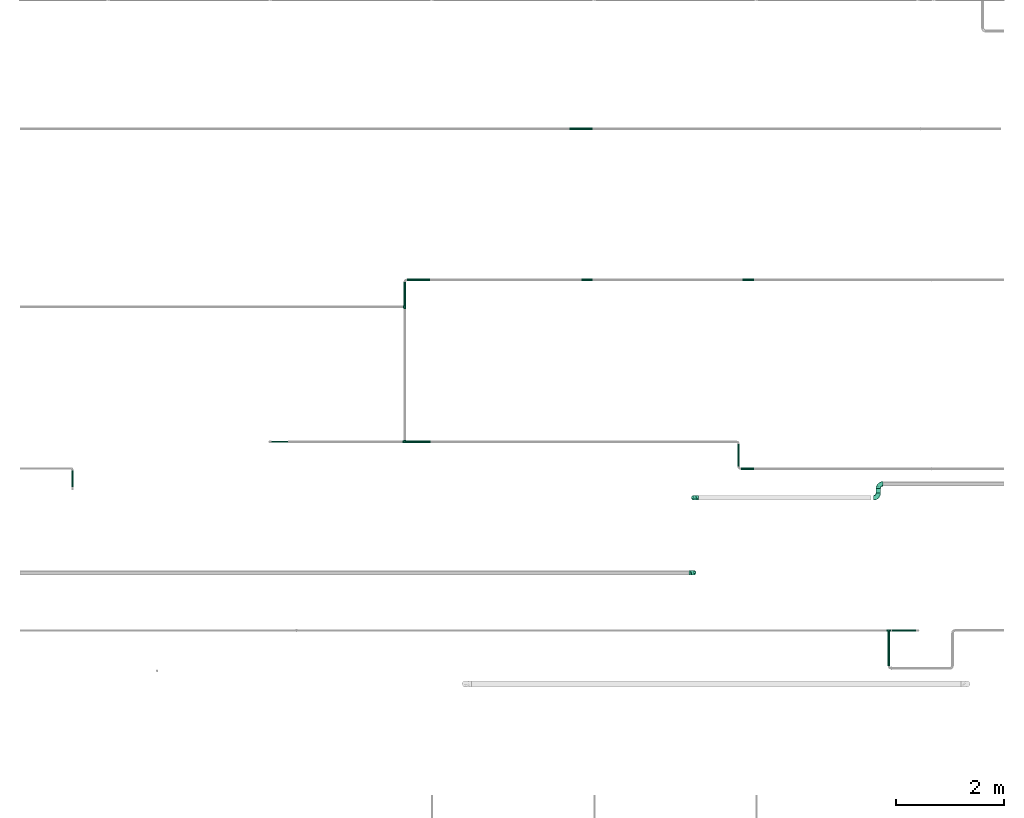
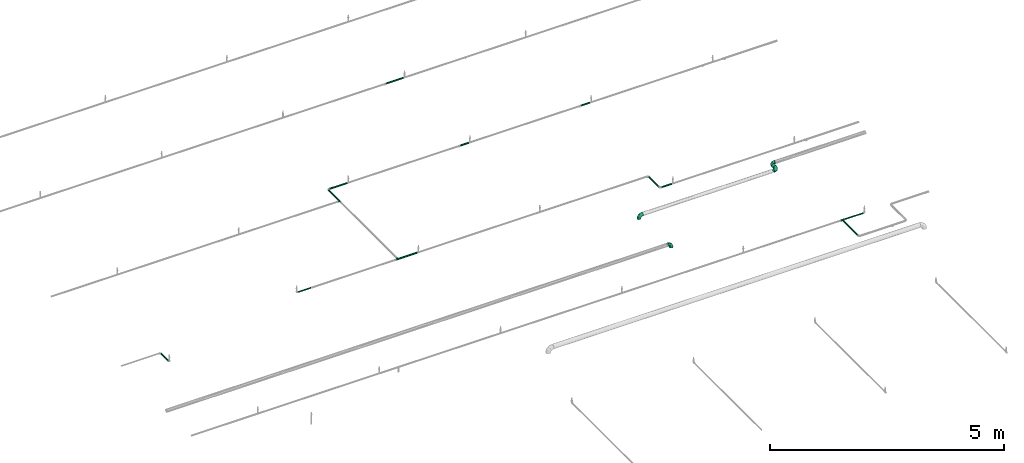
# One storey, part 4 of 94: 13 flow segments, 7 flow fittings.
"""IFC2X3 building model written with IfcOpenShell, lengths in millimetres."""

import ifcopenshell
import ifcopenshell.guid

model = None  # the IFC model being written
_history = None  # IfcOwnerHistory: only IFC2X3 demands one
_inside = {}  # id of a spatial element -> (the spatial element, [elements in it])
_under = {}  # id of a project, library or spatial element -> (it, [spatial elements below it])
_declared = {}  # id of a project -> (the project, [libraries it declares])
_typed = {}  # id of a type object -> (the type object, [elements of that type])
_made_of = {}  # id of a material, layer set ... -> (it, [elements and type objects made of it])


def new_model(schema):
    """Start an empty IFC model of exactly this schema.

    Asked for "IFC4X3", IfcOpenShell would pick the latest addendum, in which some entities
    have other attributes; the version numbers below select the first issue.
    IFC2X3 requires an IfcOwnerHistory on every rooted entity: one is made here for all.
    """
    global model, _history
    if schema == "IFC4X3":
        model = ifcopenshell.file(schema_version=(4, 3, 0, 0))
    else:
        model = ifcopenshell.file(schema=schema)
    _inside.clear()
    _under.clear()
    _declared.clear()
    _typed.clear()
    _made_of.clear()
    _history = None
    if model.schema == "IFC2X3":
        org = make("IfcOrganization", Name="unknown")
        user = make(
            "IfcPersonAndOrganization",
            ThePerson=make("IfcPerson", FamilyName="unknown"),
            TheOrganization=org,
        )
        app = make(
            "IfcApplication",
            ApplicationDeveloper=org,
            Version="unknown",
            ApplicationFullName="unknown",
            ApplicationIdentifier="unknown",
        )
        _history = make(
            "IfcOwnerHistory",
            OwningUser=user,
            OwningApplication=app,
            ChangeAction="ADDED",
            CreationDate=0,
        )
    return model


def make(cls, **values):
    """One entity of the class cls with the attributes given. An attribute that is None is left unset."""
    return model.create_entity(
        cls, **{name: value for name, value in values.items() if value is not None}
    )


def entity(cls, *values):
    """Any entity or typed value of the class cls, its attributes in the order of the schema. None: left unset."""
    e = model.create_entity(cls)
    for i, value in enumerate(values):
        if value is not None:
            e[i] = value
    return e


def rooted(cls, **values):
    """An entity with a GlobalId (a new one), such as an element, a storey or a relation."""
    return make(cls, GlobalId=ifcopenshell.guid.new(), OwnerHistory=_history, **values)


def si_unit(unit_type, name, prefix=None):
    """IfcSIUnit, for example si_unit("LENGTHUNIT", "METRE", prefix="MILLI")."""
    return make("IfcSIUnit", UnitType=unit_type, Prefix=prefix, Name=name)


def converted_unit(unit_type, name, factor, base, dimensions=None, offset=None):
    """IfcConversionBasedUnit, such as the inch: factor (a typed value) times the base unit."""
    return make(
        "IfcConversionBasedUnit"
        if offset is None
        else "IfcConversionBasedUnitWithOffset",
        ConversionOffset=offset,
        Dimensions=None
        if dimensions is None
        else entity("IfcDimensionalExponents", *dimensions),
        UnitType=unit_type,
        Name=name,
        ConversionFactor=make(
            "IfcMeasureWithUnit", ValueComponent=factor, UnitComponent=base
        ),
    )


def derived_unit(unit_type, elements):
    """IfcDerivedUnit: a product of units, each with its exponent."""
    return make(
        "IfcDerivedUnit",
        Elements=[
            make("IfcDerivedUnitElement", Unit=unit, Exponent=power)
            for unit, power in elements
        ],
        UnitType=unit_type,
    )


def assignment(units):
    """IfcUnitAssignment: the units of a project."""
    return None if units is None else make("IfcUnitAssignment", Units=units)


def point(xyz):
    """IfcCartesianPoint."""
    return None if xyz is None else make("IfcCartesianPoint", Coordinates=xyz)


def direction(xyz):
    """IfcDirection."""
    return None if xyz is None else make("IfcDirection", DirectionRatios=xyz)


def frame(location, z_axis=None, x_axis=None):
    """IfcAxis2Placement3D, a coordinate frame: its origin and axes. An axis left out is left unset."""
    return make(
        "IfcAxis2Placement3D",
        Location=point(location),
        Axis=direction(z_axis),
        RefDirection=direction(x_axis),
    )


def frame_2d(location, x_axis=None):
    """IfcAxis2Placement2D, a coordinate frame in the plane: its origin and x axis."""
    return make(
        "IfcAxis2Placement2D", Location=point(location), RefDirection=direction(x_axis)
    )


def origin_with_axes():
    """The frame at (0, 0, 0) with the z axis (0, 0, 1) and the x axis (1, 0, 0) written out."""
    return frame((0.0, 0.0, 0.0), z_axis=(0.0, 0.0, 1.0), x_axis=(1.0, 0.0, 0.0))


def origin_2d_with_axis():
    """The frame at (0, 0) in the plane with the x axis (1, 0) written out."""
    return frame_2d((0.0, 0.0), x_axis=(1.0, 0.0))


def place(relative_to, where):
    """IfcLocalPlacement: puts the frame where relative to a parent placement (None: the world)."""
    return make(
        "IfcLocalPlacement", PlacementRelTo=relative_to, RelativePlacement=where
    )


def context(
    kind, dimensions, precision=None, world=None, true_north=None, identifier=None
):
    """IfcGeometricRepresentationContext, for example the 3D "Model" context."""
    return make(
        "IfcGeometricRepresentationContext",
        ContextIdentifier=identifier,
        ContextType=kind,
        CoordinateSpaceDimension=dimensions,
        Precision=precision,
        WorldCoordinateSystem=world,
        TrueNorth=true_north,
    )


def subcontext(parent, identifier, kind, view, scale=None):
    """IfcGeometricRepresentationSubContext, for example "Body" below "Model"."""
    return make(
        "IfcGeometricRepresentationSubContext",
        ContextIdentifier=identifier,
        ContextType=kind,
        ParentContext=parent,
        TargetScale=scale,
        TargetView=view,
    )


def project(units=None, contexts=None):
    """IfcProject with its units and contexts."""
    return rooted(
        "IfcProject",
        Name="project",
        RepresentationContexts=contexts,
        UnitsInContext=assignment(units),
    )


def spatial(cls, under=None, at=None, **own):
    """A site, building, storey or space (cls), placed at a placement, below another one or the project."""
    s = rooted(cls, ObjectPlacement=at, **own)
    if under is not None:
        _under.setdefault(under.id(), (under, []))[1].append(s)
    return s


def profile(cls, at=None, kind="AREA", **sizes):
    """A parametric profile (cls). Its sizes go by their IFC names, for example OverallWidth=200.0."""
    return make(cls, ProfileType=kind, Position=at, **sizes)


def hollow_circle(**sizes):
    """IfcCircleHollowProfileDef."""
    return profile("IfcCircleHollowProfileDef", **sizes)


def extrude(swept, where, along, depth):
    """IfcExtrudedAreaSolid: the profile swept, set in the frame where, extruded along a direction by depth."""
    return make(
        "IfcExtrudedAreaSolid",
        SweptArea=swept,
        Position=where,
        ExtrudedDirection=direction(along),
        Depth=depth,
    )


def faces_of(points, faces, orient=None, outer=None):
    """IfcFace entities. A face is a list of loops; a loop is a list of indices into points, from 0.

    orient and outer hold one flag for each loop. By default every Orientation is true, the
    first loop of a face is its IfcFaceOuterBound and the others are IfcFaceBound.
    """
    made = []
    for i, loops in enumerate(faces):
        bounds = []
        for j, loop in enumerate(loops):
            is_outer = j == 0 if outer is None else outer[i][j]
            bounds.append(
                make(
                    "IfcFaceOuterBound" if is_outer else "IfcFaceBound",
                    Bound=make("IfcPolyLoop", Polygon=[points[k] for k in loop]),
                    Orientation=True if orient is None else orient[i][j],
                )
            )
        made.append(make("IfcFace", Bounds=bounds))
    return made


def open_shell(faces, orient=None, outer=None):
    """The faces of one IfcOpenShell. surface_model builds it on its shared points."""
    return ("IfcOpenShell", faces, orient, outer)


def surface_model(cls, points, shells):
    """IfcFaceBasedSurfaceModel or IfcShellBasedSurfaceModel (cls): surfaces that need not close."""
    shared = [point(p) for p in points]
    made = [make(c, CfsFaces=faces_of(shared, fs, o, b)) for c, fs, o, b in shells]
    if cls == "IfcFaceBasedSurfaceModel":
        return make(cls, FbsmFaces=made)
    return make(cls, SbsmBoundary=made)


def shape(context_of_items, identifier, shape_type, items):
    """IfcShapeRepresentation: the items that make up one representation, for example the "Body"."""
    return make(
        "IfcShapeRepresentation",
        ContextOfItems=context_of_items,
        RepresentationIdentifier=identifier,
        RepresentationType=shape_type,
        Items=items,
    )


def source(mapping_origin, context_of_items, identifier, shape_type, items):
    """IfcRepresentationMap: a shape defined once, which mapped items show again and again."""
    return make(
        "IfcRepresentationMap",
        MappingOrigin=mapping_origin,
        MappedRepresentation=shape(context_of_items, identifier, shape_type, items),
    )


def transform(
    local_origin,
    x_axis=None,
    y_axis=None,
    z_axis=None,
    scale=None,
    scale2=None,
    scale3=None,
    uniform=True,
):
    """IfcCartesianTransformationOperator3D, or its non-uniform kind. x_axis, y_axis, z_axis: its Axis1, 2, 3."""
    if uniform:
        return make(
            "IfcCartesianTransformationOperator3D",
            Axis1=direction(x_axis),
            Axis2=direction(y_axis),
            LocalOrigin=point(local_origin),
            Scale=scale,
            Axis3=direction(z_axis),
        )
    return make(
        "IfcCartesianTransformationOperator3DnonUniform",
        Axis1=direction(x_axis),
        Axis2=direction(y_axis),
        LocalOrigin=point(local_origin),
        Scale=scale,
        Axis3=direction(z_axis),
        Scale2=scale2,
        Scale3=scale3,
    )


def mapped(mapping_source, mapping_target):
    """IfcMappedItem: shows the shape of a source again, moved by a transform."""
    return make(
        "IfcMappedItem", MappingSource=mapping_source, MappingTarget=mapping_target
    )


def made_of(thing, what):
    """Note that an element or type object is made of a material, layer set ...; save() writes the relation."""
    if what is not None:
        _made_of.setdefault(what.id(), (what, []))[1].append(thing)
    return thing


def type_object(cls, material=None, **own):
    """A type object (cls), such as IfcWallType, which elements share."""
    return made_of(rooted(cls, **own), material)


def element(
    cls,
    number,
    at=None,
    inside=None,
    cuts=None,
    type_object=None,
    material=None,
    context=None,
    identifier="Body",
    shape_type=None,
    held_by="IfcProductDefinitionShape",
    body=None,
    shapes=None,
    **own,
):
    """One element of the class cls, such as IfcWall. Its Tag is "e" and its number.

    at: its placement. inside: the storey or other place that contains it. cuts: it is an
    opening in that element (IfcRelVoidsElement). A single representation is given by context,
    identifier, shape_type and body (its items); several are given by shapes. held_by: the class
    of the entity that holds the representations. save() writes the other relations.
    """
    e = rooted(cls, Tag="e%d" % number, ObjectPlacement=at, **own)
    if body is not None:
        shapes = [shape(context, identifier, shape_type, body)]
    if shapes is not None:
        e.Representation = make(held_by, Representations=shapes)
    if inside is not None:
        _inside.setdefault(inside.id(), (inside, []))[1].append(e)
    if cuts is not None:
        rooted(
            "IfcRelVoidsElement", RelatingBuildingElement=cuts, RelatedOpeningElement=e
        )
    if type_object is not None:
        _typed.setdefault(type_object.id(), (type_object, []))[1].append(e)
    return made_of(e, material)


def aggregate(whole, parts):
    """IfcRelAggregates: a whole, such as a stair, and the parts it consists of."""
    return rooted("IfcRelAggregates", RelatingObject=whole, RelatedObjects=parts)


def save(model, path):
    """Write the relations noted so far, then the file.

    IfcRelAggregates (storeys below a building ...), IfcRelContainedInSpatialStructure (elements
    in a storey), IfcRelDefinesByType, IfcRelAssociatesMaterial and IfcRelDeclares: one each for
    every whole, place, type object, material and project.
    """
    for whole, parts in _under.values():
        aggregate(whole, parts)
    for where, things in _inside.values():
        rooted(
            "IfcRelContainedInSpatialStructure",
            RelatedElements=things,
            RelatingStructure=where,
        )
    for kind, things in _typed.values():
        rooted("IfcRelDefinesByType", RelatedObjects=things, RelatingType=kind)
    for what, things in _made_of.values():
        rooted("IfcRelAssociatesMaterial", RelatedObjects=things, RelatingMaterial=what)
    for by, libraries in _declared.values():
        rooted("IfcRelDeclares", RelatingContext=by, RelatedDefinitions=libraries)
    model.write(path)


model = new_model("IFC2X3")

# Units and contexts
model_context = context("Model", 3, precision=0.01, world=frame((0.0, 4.29681676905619e-09, 0.0)), true_north=direction((4.01073788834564e-13, 1.0)))
plan_context = context("Plan", 3, precision=0.01, world=frame((0.0, 4.29681676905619e-09, 0.0)), true_north=direction((4.01073788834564e-13, 1.0)))
body_context = subcontext(model_context, "Body", "Model", "MODEL_VIEW")
ifc_project = project(units=[converted_unit("PLANEANGLEUNIT", "DEGREE", entity("IfcPositiveLengthMeasure", 0.0174532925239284), si_unit("PLANEANGLEUNIT", "RADIAN"), dimensions=[0, 0, 0, 0, 0, 0, 0]), si_unit("AREAUNIT", "SQUARE_METRE"), si_unit("LENGTHUNIT", "METRE", prefix="MILLI"), si_unit("MASSUNIT", "GRAM", prefix="KILO"), si_unit("POWERUNIT", "WATT"), si_unit("PRESSUREUNIT", "PASCAL"), si_unit("FORCEUNIT", "NEWTON", prefix="KILO"), si_unit("ELECTRICCURRENTUNIT", "AMPERE"), si_unit("THERMODYNAMICTEMPERATUREUNIT", "DEGREE_CELSIUS"), si_unit("TIMEUNIT", "SECOND"), si_unit("VOLUMEUNIT", "CUBIC_METRE"), derived_unit("LINEARVELOCITYUNIT", [(si_unit("LENGTHUNIT", "METRE"), 1), (si_unit("TIMEUNIT", "SECOND"), -1)]), derived_unit("VOLUMETRICFLOWRATEUNIT", [(si_unit("VOLUMEUNIT", "CUBIC_METRE"), 1), (si_unit("TIMEUNIT", "SECOND"), -1)]), derived_unit("THERMALTRANSMITTANCEUNIT", [(si_unit("POWERUNIT", "WATT"), 1), (si_unit("THERMODYNAMICTEMPERATUREUNIT", "KELVIN"), -1), (si_unit("AREAUNIT", "SQUARE_METRE"), -1)])], contexts=[model_context, plan_context])

# Site, building, storey
site_placement = place(None, frame((0.0, -4.29681676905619e-09, 0.0), z_axis=(0.0, 0.0, 1.0), x_axis=(1.0, 0.0, 0.0)))
site = spatial("IfcSite", under=ifc_project, at=site_placement, CompositionType="ELEMENT")
building_placement = place(site_placement, frame((0.0, 4.29681676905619e-09, 0.0), z_axis=(0.0, 0.0, 1.0), x_axis=(1.0, 0.0, 0.0)))
building = spatial("IfcBuilding", under=site, at=building_placement, Name="mc-building", CompositionType="ELEMENT")
storey_placement = place(building_placement, frame((0.0, 0.0, 200300.0), z_axis=(0.0, 0.0, 1.0), x_axis=(1.0, 0.0, 0.0)))
storey = spatial("IfcBuildingStorey", under=building, at=storey_placement, Name="Nivå C", CompositionType="ELEMENT", Elevation=200300.0)

# Flow fittings
pipe_fitting_type_1 = type_object("IfcPipeFittingType", Name="magi_pipe_fe_elbow_short_001", PredefinedType="BEND")
shared_shape_1 = source(origin_with_axes(), body_context, "Body", "SurfaceModel", [
    surface_model("IfcShellBasedSurfaceModel", [(-89.0, 22.25, -38.53813), (-89.0, 11.51745, -42.9837), (-89.0, 0.0, -44.5), (-89.0, -31.46625, -31.46625), (-89.0, 42.9837, -11.51745), (-89.0, 38.53813, -22.25), (-89.0, 31.46625, -31.46625), (-89.0, -42.9837, 11.51745), (-89.0, -22.25, -38.53813), (-89.0, -11.51745, -42.9837), (-89.0, -38.53813, -22.25), (-89.0, -42.9837, -11.51745), (-89.0, -44.5, 0.0), (-89.0, 44.5, 0.0), (-89.0, 42.9837, 11.51745), (-89.0, 38.53813, 22.25), (-89.0, 11.51745, 42.9837), (-89.0, 22.25, 38.53813), (-89.0, 31.46625, 31.46625), (-89.0, -38.53813, 22.25), (-89.0, -31.46625, 31.46625), (-89.0, -22.25, 38.53813), (-89.0, -11.51745, 42.9837), (-89.0, 0.0, 44.5), (0.0, 89.0, -44.5), (-11.51745, 89.0, -42.9837), (-22.25, 89.0, -38.53813), (31.46625, 89.0, -31.46625), (-31.46625, 89.0, -31.46625), (-38.53813, 89.0, -22.25), (-42.9837, 89.0, -11.51745), (42.9837, 89.0, 11.51745), (11.51745, 89.0, -42.9837), (22.25, 89.0, -38.53813), (42.9837, 89.0, -11.51745), (38.53813, 89.0, -22.25), (44.5, 89.0, 0.0), (-42.9837, 89.0, 11.51745), (-44.5, 89.0, 0.0), (-11.51745, 89.0, 42.9837), (-38.53813, 89.0, 22.25), (-31.46625, 89.0, 31.46625), (-22.25, 89.0, 38.53813), (31.46625, 89.0, 31.46625), (38.53813, 89.0, 22.25), (22.25, 89.0, 38.53813), (0.0, 89.0, 44.5), (11.51745, 89.0, 42.9837), (-65.42428, -34.58934, 24.99387), (-60.92615, -39.17738, 14.07402), (-54.44766, -39.9511, 0.0), (-67.0033, -41.60408, 0.0), (20.966, 19.15286, 16.63614), (18.51857, 22.50533, 24.08448), (10.4657, 7.08355, 19.79374), (-67.98176, -5.89504, 43.73894), (-62.31445, 6.82125, 44.42415), (-11.98759, -17.38546, 13.71247), (-3.14091, -7.12033, 19.73763), (-17.39966, -17.28161, 21.15509), (-65.35987, -16.82173, 40.03398), (-34.36647, -10.72722, 37.00789), (-44.30391, -0.39934, 43.13177), (-58.22127, -25.63456, 33.14332), (-32.81793, -30.5148, 11.22345), (-38.34883, -33.28275, 0.0), (-22.25, -26.61439, 0.0), (-0.24515, 1.50726, 26.66121), (-15.28358, -10.61466, 27.57816), (-43.49903, 71.02442, 19.34125), (-37.1739, 69.28144, 29.23502), (-16.61105, 76.75956, 41.6822), (-6.09891, 66.56572, 44.3907), (-68.59708, 17.4527, 42.03662), (-11.61575, 29.80494, 43.69445), (-22.11114, 8.16361, 41.55403), (-4.54608, 24.04213, 40.89496), (-76.99086, 26.94844, 36.25967), (-15.46582, 43.76126, 44.42016), (-32.96179, 32.96179, 43.41874), (-26.49757, 19.44613, 44.27078), (-70.35301, 47.39906, 9.78402), (-71.04653, 43.49184, 19.33829), (-55.25263, 55.25263, 16.63447), (-69.56392, 37.0962, 29.20392), (25.63456, 58.22127, 33.14332), (-46.15102, 58.98863, 25.18654), (-7.94897, 7.94897, 36.38252), (33.28275, 38.34883, 0.0), (30.5148, 32.81793, 11.22345), (26.61439, 22.25, 0.0), (-32.2623, 57.51649, 37.40098), (-46.90759, 49.6971, 31.52137), (28.15678, 38.83054, 22.40746), (39.17738, 60.92615, 14.07402), (34.58934, 65.42428, 24.99387), (5.89504, 67.98176, 43.73894), (-38.83054, -28.15678, 22.40746), (41.60408, 67.0033, 0.0), (39.9511, 54.44766, 0.0), (-47.30867, 30.19441, 41.15989), (-48.89993, 19.06144, 43.70364), (-27.18633, 74.61927, 36.44428), (-46.8419, 71.78865, 9.54666), (-55.77112, 58.36681, 7.8317), (20.15578, 36.24405, 30.67717), (10.72722, 34.36646, 37.00789), (8.82969, 16.37545, 30.02978), (-50.46187, 66.75, 0.0), (-41.19565, 46.99267, 36.56569), (-61.27852, 30.20737, 37.47359), (16.82173, 65.35987, 40.03398), (-35.45256, 43.08265, 40.48995), (-25.39356, 46.06506, 42.77813), (-35.78831, -20.18199, 30.44157), (-19.24543, 60.29859, 42.38003), (-43.66621, 10.90441, 44.48101), (-57.15357, 47.81587, 24.81424), (0.39934, 44.30391, 43.13177), (4.50506, -4.03199, 11.81801), (-8.42562, -16.00657, 0.0), (5.39876, -5.39876, 0.0), (18.27854, 11.2026, 9.2952), (-66.75, 50.46187, 0.0), (16.00657, 8.42562, 0.0), (-65.62177, 38.32407, -29.64079), (-71.00581, 43.50509, -19.34374), (-36.35432, -11.23048, -37.33452), (-38.64129, -0.55509, -42.32471), (-17.87953, -0.74466, -36.46313), (-70.44691, 5.62674, -44.35517), (-42.59749, -33.40785, -14.96594), (-64.9187, -39.8376, -14.50738), (-55.9131, -33.00026, -24.10277), (-64.74306, 18.16527, -42.19806), (-49.02368, 10.51969, -44.49039), (-72.04232, 46.69365, -9.73728), (-43.29251, 50.55118, -33.51754), (-41.12712, 41.12712, -39.07257), (-54.39048, 37.59063, -35.35294), (-56.62372, 56.62371, -10.62473), (15.35741, 56.35485, -39.57726), (17.54325, 75.15597, -40.50008), (26.58599, 64.37989, -33.59817), (8.60891, -0.6174, -9.3365), (21.03491, 14.72807, -8.10637), (-18.16527, 64.74306, -42.19806), (-69.86124, 27.93071, -36.81239), (-74.91995, -35.42449, -25.85463), (-53.44587, 53.44587, -21.93397), (-38.32407, 65.62176, -29.64079), (-2.76838, -7.06072, -19.3197), (-13.25704, -8.90126, -27.75888), (3.56899, 7.13004, -28.01), (-64.37989, -26.58599, -33.59817), (24.07506, 30.03079, -22.26791), (33.00026, 55.9131, -24.10277), (31.23147, 35.6382, -13.05741), (-75.15597, -17.54325, -40.50008), (39.8376, 64.9187, -14.50738), (-48.56519, -20.31894, -34.9406), (-33.22603, -18.15266, -31.12982), (-25.41361, -19.94101, -24.51222), (15.24517, 10.92147, -16.71054), (-6.18621, -14.52322, -9.0433), (-27.62496, -28.53296, -8.93888), (-46.69365, 72.04231, -9.73728), (-56.35485, -15.35741, -39.57726), (-65.56275, -5.6109, -43.68636), (-5.62674, 70.44691, -44.35517), (1.87337, 20.9035, -37.11096), (-15.70957, 15.70957, -42.01996), (0.55509, 38.64129, -42.32471), (-43.50509, 71.00581, -19.34374), (5.6109, 65.56274, -43.68636), (35.42449, 74.91995, -25.85463), (-27.93071, 69.86124, -36.8124), (-25.96661, 24.06239, -44.47474), (-42.18599, 26.33091, -43.1755), (9.1973, 37.99016, -38.87512), (18.15266, 33.22603, -31.12982), (-54.10228, 28.63855, -40.10814), (-10.51969, 49.02368, -44.49039), (-26.53428, 43.30446, -42.96025), (-33.34568, 54.74553, -37.69591), (-22.46771, -22.93149, -16.78715)], [open_shell([[[0, 1, 2]], [[0, 2, 3]], [[4, 5, 6]], [[7, 6, 0]], [[0, 3, 7]], [[8, 3, 9]], [[3, 2, 9]], [[10, 11, 3]], [[7, 3, 11]], [[11, 12, 7]], [[13, 4, 6]], [[13, 7, 14]], [[15, 14, 16]], [[16, 17, 18]], [[15, 16, 18]], [[16, 14, 7]], [[19, 20, 7]], [[21, 7, 20]], [[22, 23, 21]], [[7, 21, 23]], [[23, 16, 7]], [[6, 7, 13]], [[24, 25, 26]], [[27, 24, 26]], [[28, 29, 30]], [[28, 30, 26]], [[31, 27, 26]], [[32, 27, 33]], [[32, 24, 27]], [[27, 34, 35]], [[34, 27, 31]], [[31, 36, 34]], [[30, 31, 26]], [[37, 31, 38]], [[39, 37, 40]], [[41, 42, 39]], [[41, 39, 40]], [[31, 37, 39]], [[31, 43, 44]], [[43, 31, 45]], [[45, 46, 47]], [[45, 31, 39]], [[39, 46, 45]], [[38, 31, 30]], [[48, 19, 49]], [[50, 49, 51]], [[52, 53, 54]], [[49, 19, 7]], [[7, 51, 49]], [[23, 55, 56]], [[20, 19, 48]], [[57, 58, 59]], [[60, 61, 62]], [[63, 21, 20]], [[63, 60, 21]], [[64, 65, 66]], [[58, 67, 68]], [[40, 69, 70]], [[39, 71, 72]], [[16, 73, 17]], [[74, 75, 76]], [[17, 77, 18]], [[22, 55, 23]], [[78, 79, 80]], [[81, 82, 83]], [[15, 84, 82]], [[85, 43, 45]], [[13, 14, 81]], [[14, 15, 82]], [[69, 86, 70]], [[84, 15, 18]], [[23, 56, 16]], [[68, 87, 61]], [[18, 77, 84]], [[88, 89, 90]], [[91, 70, 92]], [[93, 94, 95]], [[57, 59, 64]], [[40, 37, 69]], [[47, 46, 96]], [[44, 43, 95]], [[94, 31, 44]], [[49, 50, 65]], [[95, 94, 44]], [[48, 97, 63]], [[94, 98, 31]], [[94, 88, 99]], [[100, 73, 101]], [[70, 91, 102]], [[83, 103, 104]], [[105, 106, 107]], [[108, 103, 38]], [[100, 109, 110]], [[103, 83, 69]], [[85, 111, 106]], [[42, 41, 102]], [[112, 113, 91]], [[40, 70, 41]], [[21, 60, 22]], [[114, 61, 63]], [[111, 45, 47]], [[42, 71, 39]], [[46, 39, 72]], [[115, 78, 72]], [[101, 116, 80]], [[111, 85, 45]], [[110, 92, 84]], [[73, 16, 56]], [[82, 117, 83]], [[115, 113, 78]], [[96, 72, 118]], [[61, 60, 63]], [[55, 60, 62]], [[114, 63, 97]], [[61, 87, 75]], [[96, 111, 47]], [[118, 76, 106]], [[118, 106, 111]], [[106, 87, 107]], [[101, 73, 56]], [[77, 73, 110]], [[97, 48, 49]], [[63, 20, 48]], [[43, 85, 95]], [[93, 95, 85]], [[119, 120, 121]], [[57, 119, 58]], [[57, 64, 66]], [[90, 89, 122]], [[119, 121, 122]], [[106, 105, 85]], [[103, 69, 37]], [[83, 117, 86]], [[100, 112, 109]], [[115, 71, 102]], [[117, 84, 92]], [[83, 104, 81]], [[101, 80, 79]], [[118, 72, 78]], [[75, 80, 62]], [[78, 80, 74]], [[72, 96, 46]], [[111, 96, 118]], [[60, 55, 22]], [[56, 55, 62]], [[101, 56, 116]], [[100, 101, 79]], [[112, 100, 79]], [[73, 100, 110]], [[113, 112, 79]], [[109, 112, 91]], [[38, 103, 37]], [[103, 108, 104]], [[108, 123, 104]], [[104, 123, 81]], [[13, 81, 123]], [[14, 82, 81]], [[56, 62, 116]], [[62, 80, 116]], [[78, 113, 79]], [[91, 113, 115]], [[67, 87, 68]], [[53, 107, 54]], [[84, 117, 82]], [[86, 117, 92]], [[70, 86, 92]], [[83, 86, 69]], [[53, 105, 107]], [[93, 85, 105]], [[70, 102, 41]], [[115, 102, 91]], [[91, 92, 109]], [[110, 109, 92]], [[61, 75, 62]], [[76, 75, 87]], [[106, 76, 87]], [[74, 76, 118]], [[78, 74, 118]], [[75, 74, 80]], [[7, 12, 51]], [[98, 94, 99]], [[98, 36, 31]], [[65, 64, 49]], [[49, 64, 97]], [[89, 94, 93]], [[94, 89, 88]], [[93, 53, 52]], [[119, 122, 54]], [[122, 121, 124]], [[58, 119, 54]], [[57, 120, 119]], [[67, 54, 107]], [[59, 58, 68]], [[114, 59, 68]], [[64, 59, 97]], [[54, 67, 58]], [[87, 67, 107]], [[73, 77, 17]], [[84, 77, 110]], [[102, 71, 42]], [[72, 71, 115]], [[59, 114, 97]], [[68, 61, 114]], [[57, 66, 120]], [[54, 122, 52]], [[105, 53, 93]], [[122, 89, 52]], [[93, 52, 89]], [[124, 90, 122]], [[125, 5, 126]], [[127, 128, 129]], [[2, 1, 130]], [[131, 132, 133]], [[130, 134, 135]], [[134, 1, 0]], [[123, 136, 13]], [[137, 138, 139]], [[126, 136, 140]], [[141, 142, 143]], [[125, 6, 5]], [[144, 145, 124]], [[25, 146, 26]], [[134, 0, 147]], [[132, 10, 148]], [[149, 150, 137]], [[132, 51, 11]], [[151, 152, 153]], [[154, 3, 8]], [[155, 156, 157]], [[158, 154, 8]], [[159, 35, 34]], [[10, 132, 11]], [[3, 148, 10]], [[133, 154, 160]], [[158, 8, 9]], [[161, 162, 133]], [[153, 155, 163]], [[123, 108, 140]], [[164, 66, 165]], [[38, 30, 166]], [[167, 168, 128]], [[5, 4, 126]], [[25, 169, 146]], [[170, 171, 172]], [[173, 150, 149]], [[25, 24, 169]], [[33, 27, 143]], [[174, 32, 142]], [[29, 28, 150]], [[175, 27, 35]], [[26, 176, 28]], [[177, 135, 178]], [[32, 33, 142]], [[159, 157, 156]], [[139, 147, 125]], [[170, 172, 179]], [[30, 29, 173]], [[153, 170, 180]], [[168, 167, 158]], [[143, 180, 141]], [[168, 9, 2]], [[159, 98, 99]], [[147, 181, 134]], [[0, 6, 147]], [[159, 156, 175]], [[176, 26, 146]], [[182, 174, 172]], [[32, 174, 24]], [[135, 134, 178]], [[138, 183, 178]], [[173, 140, 166]], [[138, 137, 184]], [[134, 181, 178]], [[185, 151, 164]], [[173, 166, 30]], [[140, 149, 126]], [[175, 143, 27]], [[180, 143, 156]], [[172, 174, 141]], [[169, 174, 182]], [[179, 180, 170]], [[172, 171, 177]], [[159, 34, 98]], [[157, 99, 88]], [[145, 157, 90]], [[155, 157, 163]], [[167, 127, 160]], [[148, 154, 133]], [[130, 168, 2]], [[135, 177, 128]], [[135, 128, 168]], [[128, 171, 129]], [[133, 162, 131]], [[34, 36, 98]], [[6, 125, 147]], [[181, 139, 138]], [[146, 183, 184]], [[150, 28, 176]], [[126, 4, 136]], [[125, 126, 149]], [[150, 173, 29]], [[140, 173, 149]], [[180, 155, 153]], [[129, 171, 170]], [[151, 153, 163]], [[153, 152, 129]], [[153, 129, 170]], [[129, 161, 127]], [[134, 130, 1]], [[168, 130, 135]], [[174, 169, 24]], [[146, 169, 182]], [[184, 183, 138]], [[177, 171, 128]], [[183, 177, 178]], [[172, 177, 182]], [[146, 182, 183]], [[177, 183, 182]], [[185, 165, 131]], [[65, 131, 165]], [[164, 144, 121]], [[152, 162, 161]], [[144, 151, 163]], [[164, 120, 66]], [[162, 151, 185]], [[129, 152, 161]], [[13, 136, 4]], [[123, 140, 136]], [[140, 108, 166]], [[38, 166, 108]], [[151, 144, 164]], [[145, 144, 163]], [[157, 145, 163]], [[124, 121, 144]], [[145, 90, 124]], [[164, 165, 185]], [[65, 50, 131]], [[165, 66, 65]], [[50, 132, 131]], [[138, 178, 181]], [[147, 139, 181]], [[125, 149, 137]], [[137, 139, 125]], [[184, 150, 176]], [[150, 184, 137]], [[184, 176, 146]], [[151, 162, 152]], [[162, 185, 131]], [[51, 132, 50]], [[51, 12, 11]], [[143, 142, 33]], [[174, 142, 141]], [[159, 175, 35]], [[143, 175, 156]], [[168, 158, 9]], [[154, 158, 167]], [[154, 148, 3]], [[132, 148, 133]], [[99, 157, 159]], [[88, 90, 157]], [[156, 155, 180]], [[172, 141, 179]], [[180, 179, 141]], [[160, 127, 161]], [[128, 127, 167]], [[133, 160, 161]], [[167, 160, 154]], [[164, 121, 120]]])]),
])
for number, where, z_axis, x_axis, name in (
    (1, (526346.06344, 409460.81516, 2750.0), (0.0, 1.0, 0.0), (0.0, 0.0, 1.0), "magi_pipe_fe_elbow_short_001"),
    (2, (529766.06344, 409460.81516, 2750.0), (0.0, 0.0, 1.0), (1.0, 0.0, 0.0), "magi_pipe_fe_elbow_short_001"),
    (3, (529766.06344, 409720.81516, 2750.0), (0.0, 0.0, 1.0), (-1.0, 0.0, 0.0), "magi_pipe_fe_elbow_short_001"),
    (4, (526346.06344, 408074.33253, 2850.0), (0.0, -1.0, 0.0), (0.0, 0.0, 1.0), "magi_pipe_fe_elbow_short_001"),
):
    element("IfcFlowFitting", number, at=place(storey_placement, frame(where, z_axis=z_axis, x_axis=x_axis)), inside=storey, type_object=pipe_fitting_type_1, Name=name, context=body_context, shape_type="MappedRepresentation", body=[
        mapped(shared_shape_1, transform((0.0, 0.0, 0.0), scale=1.0)),
    ])
pipe_fitting_type_2 = type_object("IfcPipeFittingType", Name="magi_pipe_fe_tee_centric_90_NOR", PredefinedType="JUNCTION")
shared_shape_2 = source(origin_with_axes(), body_context, "Body", "SurfaceModel", [
    surface_model("IfcShellBasedSurfaceModel", [(-42.4, 5.48696, 20.47763), (-42.4, 10.6, 18.35974), (-42.4, 0.0, 21.2), (-42.4, 0.0, -21.2), (-42.4, -5.48696, -20.47763), (-42.4, 5.48696, -20.47763), (-42.4, 10.6, -18.35974), (-42.4, 14.99066, -14.99066), (-42.4, -20.47763, 5.48696), (-42.4, 18.35974, -10.6), (-42.4, -14.99066, -14.99066), (-42.4, -18.35974, -10.6), (-42.4, -10.6, -18.35974), (-42.4, -20.47763, -5.48696), (-42.4, -21.2, 0.0), (-42.4, 18.35974, 10.6), (-42.4, 20.47763, -5.48696), (-42.4, 20.47763, 5.48696), (-42.4, 21.2, 0.0), (-42.4, 14.99066, 14.99066), (-42.4, -18.35974, 10.6), (-42.4, -14.99066, 14.99066), (-42.4, -10.6, 18.35974), (-42.4, -5.48696, 20.47763), (42.4, 5.48696, -20.47763), (42.4, -5.48696, -20.47763), (42.4, 0.0, -21.2), (42.4, 20.47763, -5.48696), (42.4, 10.6, -18.35974), (42.4, 14.99066, -14.99066), (42.4, 18.35974, -10.6), (42.4, -10.6, -18.35974), (42.4, -18.35974, -10.6), (42.4, -14.99066, -14.99066), (42.4, -21.2, 0.0), (42.4, -20.47763, -5.48696), (42.4, -18.35974, 10.6), (42.4, 20.47763, 5.48696), (42.4, 10.6, 18.35974), (42.4, 18.35974, 10.6), (42.4, 14.99066, 14.99066), (42.4, 0.0, 21.2), (42.4, 5.48696, 20.47763), (42.4, -10.6, 18.35974), (42.4, -14.99066, 14.99066), (42.4, -20.47763, 5.48696), (42.4, -5.48696, 20.47763), (42.4, 21.2, 0.0), (20.431, -20.431, 5.6581), (21.2, -21.2, 0.0), (18.34872, -18.34872, 10.61906), (11.8822, -11.8822, 17.55714), (15.38371, -15.38371, 14.58703), (-21.2, -21.2, 0.0), (-20.431, -20.431, 5.6581), (-18.34872, -18.34872, 10.61906), (-15.38371, -15.38371, 14.58703), (-11.8822, -11.8822, 17.55714), (-8.06471, -8.06471, 19.60613), (8.06471, -8.06471, 19.60613), (4.07093, -4.07093, 20.80547), (0.0, 0.0, 21.2), (-4.07093, -4.07093, 20.80547), (4.07093, -4.07093, -20.80547), (0.0, 0.0, -21.2), (-4.07093, -4.07093, -20.80547), (-8.06471, -8.06471, -19.60613), (8.06471, -8.06471, -19.60613), (11.8822, -11.8822, -17.55714), (15.38371, -15.38371, -14.58703), (18.34872, -18.34872, -10.61906), (20.431, -20.431, -5.6581), (-11.8822, -11.8822, -17.55714), (-15.38371, -15.38371, -14.58703), (-20.431, -20.431, -5.6581), (-18.34872, -18.34872, -10.61906), (14.99066, -31.8, -14.99066), (0.0, -31.8, -21.2), (5.48696, -31.8, -20.47763), (10.6, -31.8, -18.35974), (18.35974, -31.8, -10.6), (20.47763, -31.8, -5.48696), (-21.2, -31.8, 0.0), (-10.6, -31.8, 18.35974), (-5.48696, -31.8, -20.47763), (-14.99066, -31.8, -14.99066), (-10.6, -31.8, -18.35974), (-18.35974, -31.8, -10.6), (-20.47763, -31.8, -5.48696), (20.47763, -31.8, 5.48696), (18.35974, -31.8, 10.6), (10.6, -31.8, 18.35974), (14.99066, -31.8, 14.99066), (0.0, -31.8, 21.2), (5.48696, -31.8, 20.47763), (-14.99066, -31.8, 14.99066), (-18.35974, -31.8, 10.6), (-20.47763, -31.8, 5.48696), (-5.48696, -31.8, 20.47763), (21.2, -31.8, 0.0)], [open_shell([[[0, 1, 2]], [[3, 4, 5]], [[6, 5, 7]], [[8, 5, 4]], [[7, 5, 9]], [[9, 5, 1]], [[10, 11, 12]], [[4, 12, 11]], [[11, 13, 4]], [[14, 4, 13]], [[8, 4, 14]], [[15, 16, 9]], [[15, 17, 18]], [[9, 1, 15]], [[8, 1, 5]], [[19, 15, 1]], [[20, 21, 8]], [[22, 8, 21]], [[23, 2, 22]], [[1, 8, 22]], [[22, 2, 1]], [[18, 16, 15]], [[24, 25, 26]], [[27, 24, 28]], [[29, 30, 27]], [[29, 27, 28]], [[25, 24, 27]], [[31, 32, 33]], [[32, 31, 25]], [[32, 34, 35]], [[36, 32, 25]], [[32, 36, 34]], [[36, 25, 27]], [[36, 27, 37]], [[38, 37, 39]], [[36, 37, 38]], [[38, 39, 40]], [[41, 38, 42]], [[36, 43, 44]], [[45, 34, 36]], [[43, 41, 46]], [[43, 36, 38]], [[41, 43, 38]], [[27, 47, 37]], [[45, 36, 48]], [[34, 45, 49]], [[49, 45, 48]], [[36, 50, 48]], [[44, 43, 51]], [[50, 36, 52]], [[51, 52, 44]], [[52, 36, 44]], [[53, 54, 8]], [[53, 8, 14]], [[8, 54, 20]], [[54, 55, 20]], [[56, 57, 21]], [[21, 20, 56]], [[21, 57, 22]], [[56, 20, 55]], [[22, 57, 58]], [[51, 43, 59]], [[60, 41, 61]], [[59, 46, 60]], [[46, 59, 43]], [[60, 46, 41]], [[61, 41, 42]], [[39, 37, 17]], [[19, 38, 40]], [[15, 40, 39]], [[42, 38, 1]], [[18, 37, 47]], [[62, 61, 2]], [[62, 23, 58]], [[23, 62, 2]], [[58, 23, 22]], [[61, 0, 2]], [[42, 0, 61]], [[1, 0, 42]], [[1, 38, 19]], [[15, 19, 40]], [[17, 15, 39]], [[37, 18, 17]], [[29, 7, 30]], [[27, 16, 47]], [[27, 30, 9]], [[6, 29, 28]], [[26, 25, 63]], [[26, 64, 24]], [[64, 26, 63]], [[28, 24, 5]], [[64, 5, 24]], [[16, 27, 9]], [[30, 7, 9]], [[7, 29, 6]], [[47, 16, 18]], [[65, 66, 4]], [[3, 5, 64]], [[3, 65, 4]], [[66, 12, 4]], [[5, 6, 28]], [[3, 64, 65]], [[63, 25, 67]], [[31, 33, 68]], [[69, 68, 33]], [[32, 70, 69]], [[69, 33, 32]], [[31, 68, 67]], [[35, 34, 49]], [[35, 71, 32]], [[71, 35, 49]], [[32, 71, 70]], [[72, 12, 66]], [[72, 10, 12]], [[10, 72, 73]], [[10, 73, 11]], [[74, 53, 13]], [[75, 74, 11]], [[74, 13, 11]], [[13, 53, 14]], [[75, 11, 73]], [[31, 67, 25]], [[76, 77, 78]], [[76, 78, 79]], [[76, 80, 81]], [[76, 81, 77]], [[82, 77, 83]], [[84, 85, 86]], [[84, 77, 85]], [[87, 82, 88]], [[85, 77, 87]], [[77, 82, 87]], [[77, 81, 83]], [[89, 90, 81]], [[90, 91, 81]], [[91, 83, 81]], [[91, 90, 92]], [[93, 91, 94]], [[82, 95, 96]], [[97, 82, 96]], [[83, 93, 98]], [[83, 95, 82]], [[91, 93, 83]], [[81, 99, 89]], [[82, 97, 53]], [[54, 53, 97]], [[56, 96, 95]], [[95, 83, 57]], [[54, 97, 96]], [[58, 83, 98]], [[55, 54, 96]], [[56, 55, 96]], [[58, 57, 83]], [[93, 61, 62]], [[58, 98, 62]], [[56, 95, 57]], [[62, 98, 93]], [[60, 93, 94]], [[91, 59, 94]], [[90, 89, 48]], [[52, 92, 90]], [[51, 91, 92]], [[49, 89, 99]], [[59, 60, 94]], [[51, 59, 91]], [[49, 48, 89]], [[50, 52, 90]], [[48, 50, 90]], [[51, 92, 52]], [[93, 60, 61]], [[99, 81, 49]], [[71, 49, 81]], [[69, 80, 76]], [[76, 79, 68]], [[80, 71, 81]], [[67, 79, 78]], [[70, 71, 80]], [[69, 70, 80]], [[67, 68, 79]], [[77, 64, 63]], [[67, 78, 63]], [[69, 76, 68]], [[63, 78, 77]], [[65, 77, 84]], [[86, 66, 84]], [[87, 88, 74]], [[73, 85, 87]], [[72, 86, 85]], [[53, 88, 82]], [[66, 65, 84]], [[72, 66, 86]], [[53, 74, 88]], [[75, 73, 87]], [[74, 75, 87]], [[72, 85, 73]], [[77, 65, 64]]])]),
])
for number, where, z_axis, x_axis, name in (
    (5, (529961.18385, 407003.74497, 2850.0), (0.0, 0.0, 1.0), (1.0, 0.0, 0.0), "magi_pipe_fe_tee_centric_90_NOR"),
    (6, (520991.06879, 412998.99053, 2850.0), (0.0, 0.0, -1.0), (0.0, 1.0, 0.0), "magi_pipe_fe_tee_centric_90_NOR"),
    (7, (520991.06879, 410500.1625, 2850.0), (0.0, 0.0, 1.0), (-1.0, 0.0, 0.0), "magi_pipe_fe_tee_centric_90_NOR"),
):
    element("IfcFlowFitting", number, at=place(storey_placement, frame(where, z_axis=z_axis, x_axis=x_axis)), inside=storey, type_object=pipe_fitting_type_2, Name=name, context=body_context, shape_type="MappedRepresentation", body=[
        mapped(shared_shape_2, transform((0.0, 0.0, 0.0), scale=1.0)),
    ])

# Flow segments
pipe_segment_type = type_object("IfcPipeSegmentType", Name="Stålrør normaltykke", PredefinedType="RIGIDSEGMENT")
shared_shape_3 = source(origin_with_axes(), body_context, "Body", "SweptSolid", [
    extrude(hollow_circle(Radius=44.5, WallThickness=2.0, at=origin_2d_with_axis()), frame((0.0, 0.0, 0.0), z_axis=(1.0, 0.0, 0.0), x_axis=(0.0, 1.0, 0.0)), (0.0, 0.0, 1.0), 82.0),
])
flow_segment_1_placement = place(storey_placement, frame((529766.06344, 409549.81516, 2750.0), z_axis=(0.0, 0.0, 1.0), x_axis=(0.0, 1.0, 0.0)))
element("IfcFlowSegment", 8, at=flow_segment_1_placement, inside=storey, type_object=pipe_segment_type, Name="Stålrør normaltykke", context=body_context, shape_type="MappedRepresentation", body=[
    mapped(shared_shape_3, transform((0.0, 0.0, 0.0), scale=1.0)),
])
shared_shape_4 = source(origin_with_axes(), body_context, "Body", "SweptSolid", [
    extrude(hollow_circle(Radius=21.2, WallThickness=2.0, at=origin_2d_with_axis()), frame((0.0, 0.0, 0.0), z_axis=(1.0, 0.0, 0.0), x_axis=(0.0, 1.0, 0.0)), (0.0, 0.0, 1.0), 625.8),
])
flow_segment_2_placement = place(storey_placement, frame((529961.18385, 406971.94497, 2850.0), z_axis=(0.0, 0.0, 1.0), x_axis=(0.0, -1.0, 0.0)))
element("IfcFlowSegment", 9, at=flow_segment_2_placement, inside=storey, type_object=pipe_segment_type, Name="Stålrør normaltykke", context=body_context, shape_type="MappedRepresentation", body=[
    mapped(shared_shape_4, transform((0.0, 0.0, 0.0), scale=1.0)),
])
shared_shape_5 = source(origin_with_axes(), body_context, "Body", "SweptSolid", [
    extrude(hollow_circle(Radius=16.9, WallThickness=2.0, at=origin_2d_with_axis()), frame((0.0, 0.0, 0.0), z_axis=(1.0, 0.0, 0.0), x_axis=(0.0, 1.0, 0.0)), (0.0, 0.0, 1.0), 457.6),
])
flow_segment_3_placement = place(storey_placement, frame((530012.18385, 407003.74497, 2850.0), z_axis=(0.0, 0.0, 1.0), x_axis=(1.0, 0.0, 0.0)))
element("IfcFlowSegment", 10, at=flow_segment_3_placement, inside=storey, type_object=pipe_segment_type, Name="Stålrør normaltykke", context=body_context, shape_type="MappedRepresentation", body=[
    mapped(shared_shape_5, transform((0.0, 0.0, 0.0), scale=1.0)),
])
shared_shape_6 = source(origin_with_axes(), body_context, "Body", "SweptSolid", [
    extrude(hollow_circle(Radius=21.2, WallThickness=2.0, at=origin_2d_with_axis()), frame((0.0, 0.0, 0.0), z_axis=(1.0, 0.0, 0.0), x_axis=(0.0, 1.0, 0.0)), (0.0, 0.0, 1.0), 427.4),
])
flow_segment_4_placement = place(storey_placement, frame((524041.06147, 416298.62756, 2850.0), z_axis=(0.0, 0.0, 1.0), x_axis=(1.0, 0.0, 0.0)))
element("IfcFlowSegment", 11, at=flow_segment_4_placement, inside=storey, type_object=pipe_segment_type, Name="Stålrør normaltykke", context=body_context, shape_type="MappedRepresentation", body=[
    mapped(shared_shape_6, transform((0.0, 0.0, 0.0), scale=1.0)),
])
shared_shape_7 = source(origin_with_axes(), body_context, "Body", "SweptSolid", [
    extrude(hollow_circle(Radius=21.2, WallThickness=2.0, at=origin_2d_with_axis()), frame((0.0, 0.0, 0.0), z_axis=(1.0, 0.0, 0.0), x_axis=(0.0, 1.0, 0.0)), (0.0, 0.0, 1.0), 204.5),
])
flow_segment_5_placement = place(storey_placement, frame((524264.5831, 413500.1625, 2850.0), z_axis=(0.0, 0.0, 1.0), x_axis=(1.0, 0.0, 0.0)))
element("IfcFlowSegment", 12, at=flow_segment_5_placement, inside=storey, type_object=pipe_segment_type, Name="Stålrør normaltykke", context=body_context, shape_type="MappedRepresentation", body=[
    mapped(shared_shape_7, transform((0.0, 0.0, 0.0), scale=1.0)),
])
shared_shape_8 = source(origin_with_axes(), body_context, "Body", "SweptSolid", [
    extrude(hollow_circle(Radius=21.2, WallThickness=2.0, at=origin_2d_with_axis()), frame((0.0, 0.0, 0.0), z_axis=(1.0, 0.0, 0.0), x_axis=(0.0, 1.0, 0.0)), (0.0, 0.0, 1.0), 218.2),
])
flow_segment_6_placement = place(storey_placement, frame((527245.28953, 413500.1625, 2850.0), z_axis=(0.0, 0.0, 1.0), x_axis=(1.0, 0.0, 0.0)))
element("IfcFlowSegment", 13, at=flow_segment_6_placement, inside=storey, type_object=pipe_segment_type, Name="Stålrør normaltykke", context=body_context, shape_type="MappedRepresentation", body=[
    mapped(shared_shape_8, transform((0.0, 0.0, 0.0), scale=1.0)),
])
shared_shape_9 = source(origin_with_axes(), body_context, "Body", "SweptSolid", [
    extrude(hollow_circle(Radius=21.2, WallThickness=2.0, at=origin_2d_with_axis()), frame((0.0, 0.0, 0.0), z_axis=(1.0, 0.0, 0.0), x_axis=(0.0, 1.0, 0.0)), (0.0, 0.0, 1.0), 430.0),
])
flow_segment_7_placement = place(storey_placement, frame((521463.46879, 413500.1625, 2850.0), z_axis=(0.0, 0.0, 1.0), x_axis=(-1.0, 0.0, 0.0)))
element("IfcFlowSegment", 14, at=flow_segment_7_placement, inside=storey, type_object=pipe_segment_type, Name="Stålrør normaltykke", context=body_context, shape_type="MappedRepresentation", body=[
    mapped(shared_shape_9, transform((0.0, 0.0, 0.0), scale=1.0)),
])
shared_shape_10 = source(origin_with_axes(), body_context, "Body", "SweptSolid", [
    extrude(hollow_circle(Radius=21.2, WallThickness=2.0, at=origin_2d_with_axis()), frame((0.0, 0.0, 0.0), z_axis=(1.0, 0.0, 0.0), x_axis=(0.0, 1.0, 0.0)), (0.0, 0.0, 1.0), 416.4),
])
flow_segment_8_placement = place(storey_placement, frame((520991.06879, 413457.7625, 2850.0), z_axis=(0.0, 0.0, 1.0), x_axis=(0.0, -1.0, 0.0)))
element("IfcFlowSegment", 15, at=flow_segment_8_placement, inside=storey, type_object=pipe_segment_type, Name="Stålrør normaltykke", context=body_context, shape_type="MappedRepresentation", body=[
    mapped(shared_shape_10, transform((0.0, 0.0, 0.0), scale=1.0)),
])
shared_shape_11 = source(origin_with_axes(), body_context, "Body", "SweptSolid", [
    extrude(hollow_circle(Radius=21.2, WallThickness=2.0, at=origin_2d_with_axis()), frame((0.0, 0.0, 0.0), z_axis=(1.0, 0.0, 0.0), x_axis=(0.0, 1.0, 0.0)), (0.0, 0.0, 1.0), 415.2),
])
flow_segment_9_placement = place(storey_placement, frame((527177.13097, 410457.7625, 2850.0), z_axis=(0.0, 0.0, 1.0), x_axis=(0.0, -1.0, 0.0)))
element("IfcFlowSegment", 16, at=flow_segment_9_placement, inside=storey, type_object=pipe_segment_type, Name="Stålrør normaltykke", context=body_context, shape_type="MappedRepresentation", body=[
    mapped(shared_shape_11, transform((0.0, 0.0, 0.0), scale=1.0)),
])
shared_shape_12 = source(origin_with_axes(), body_context, "Body", "SweptSolid", [
    extrude(hollow_circle(Radius=16.9, WallThickness=2.0, at=origin_2d_with_axis()), frame((0.0, 0.0, 0.0), z_axis=(1.0, 0.0, 0.0), x_axis=(0.0, 1.0, 0.0)), (0.0, 0.0, 1.0), 317.6),
])
flow_segment_10_placement = place(storey_placement, frame((518838.53097, 410500.1625, 2850.0), z_axis=(0.0, 0.0, 1.0), x_axis=(-1.0, 0.0, 0.0)))
element("IfcFlowSegment", 17, at=flow_segment_10_placement, inside=storey, type_object=pipe_segment_type, Name="Stålrør normaltykke", context=body_context, shape_type="MappedRepresentation", body=[
    mapped(shared_shape_12, transform((0.0, 0.0, 0.0), scale=1.0)),
])
shared_shape_13 = source(origin_with_axes(), body_context, "Body", "SweptSolid", [
    extrude(hollow_circle(Radius=21.2, WallThickness=2.0, at=origin_2d_with_axis()), frame((0.0, 0.0, 0.0), z_axis=(1.0, 0.0, 0.0), x_axis=(0.0, 1.0, 0.0)), (0.0, 0.0, 1.0), 247.0),
])
flow_segment_11_placement = place(storey_placement, frame((527219.53097, 410000.1625, 2850.0), z_axis=(0.0, 0.0, 1.0), x_axis=(1.0, 0.0, 0.0)))
element("IfcFlowSegment", 18, at=flow_segment_11_placement, inside=storey, type_object=pipe_segment_type, Name="Stålrør normaltykke", context=body_context, shape_type="MappedRepresentation", body=[
    mapped(shared_shape_13, transform((0.0, 0.0, 0.0), scale=1.0)),
])
shared_shape_14 = source(origin_with_axes(), body_context, "Body", "SweptSolid", [
    extrude(hollow_circle(Radius=21.2, WallThickness=2.0, at=origin_2d_with_axis()), frame((0.0, 0.0, 0.0), z_axis=(1.0, 0.0, 0.0), x_axis=(0.0, 1.0, 0.0)), (0.0, 0.0, 1.0), 431.4),
])
flow_segment_12_placement = place(storey_placement, frame((521033.46879, 410500.1625, 2850.0), z_axis=(0.0, 0.0, 1.0), x_axis=(1.0, 0.0, 0.0)))
element("IfcFlowSegment", 19, at=flow_segment_12_placement, inside=storey, type_object=pipe_segment_type, Name="Stålrør normaltykke", context=body_context, shape_type="MappedRepresentation", body=[
    mapped(shared_shape_14, transform((0.0, 0.0, 0.0), scale=1.0)),
])
shared_shape_15 = source(origin_with_axes(), body_context, "Body", "SweptSolid", [
    extrude(hollow_circle(Radius=16.9, WallThickness=2.0, at=origin_2d_with_axis()), frame((0.0, 0.0, 0.0), z_axis=(1.0, 0.0, 0.0), x_axis=(0.0, 1.0, 0.0)), (0.0, 0.0, 1.0), 312.4),
])
flow_segment_13_placement = place(storey_placement, frame((514835.88771, 409971.95497, 2850.0), z_axis=(0.0, 0.0, 1.0), x_axis=(0.0, -1.0, 0.0)))
element("IfcFlowSegment", 20, at=flow_segment_13_placement, inside=storey, type_object=pipe_segment_type, Name="Stålrør normaltykke", context=body_context, shape_type="MappedRepresentation", body=[
    mapped(shared_shape_15, transform((0.0, 0.0, 0.0), scale=1.0)),
])

save(model, "model.ifc")
